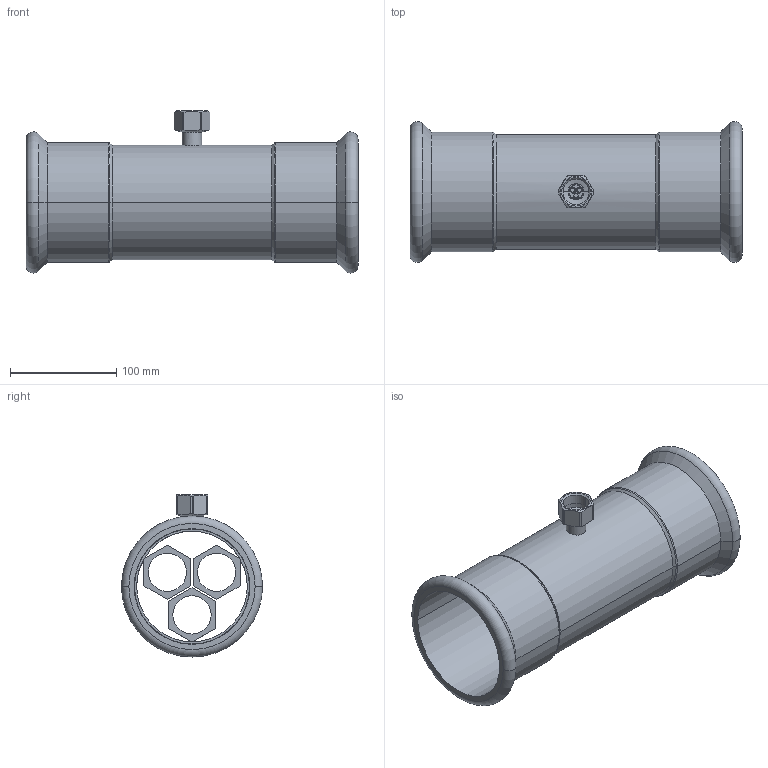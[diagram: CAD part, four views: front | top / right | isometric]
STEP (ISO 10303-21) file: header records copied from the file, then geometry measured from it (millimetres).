
FILE_DESCRIPTION(('OneSpaceDesigner STEP Export'),'2;1');
FILE_NAME('R2718 108xRp3-4x108.stp','2010-06-10T12:44:54',(''),(''),'OneSpace Designer STEP processor for AP214 (Solid Model)','OneSpace Modeling 15.00A 14-Mar-2007 (C) CoCreate Software GmbH','');
FILE_SCHEMA(('AUTOMOTIVE_DESIGN { 1 0 10303 214 1 1 1 1 }'));
Length unit declared in the file: millimetre
Products named in the file (2): R2718_108xRp3-4x108
Assembly tree (1 placements, depth 2):
  R2718_108xRp3-4x108
    R2718_108xRp3-4x108
Bounding box: 312 x 132.58 x 152.29 mm (x, y, z)
Volume: 343104.3 mm3; surface area: 246937.2 mm2
Topology: 1 solids, 1 shells, 186 faces, 473 edges, 304 vertices
Faces by surface type: plane 94, cylinder 64, cone 20, torus 8
Entity records: 6522 total; most frequent: CARTESIAN_POINT 2431, ORIENTED_EDGE 946, DIRECTION 689, EDGE_CURVE 473, VERTEX_POINT 304, VECTOR 287, LINE 287, EDGE_LOOP 221
